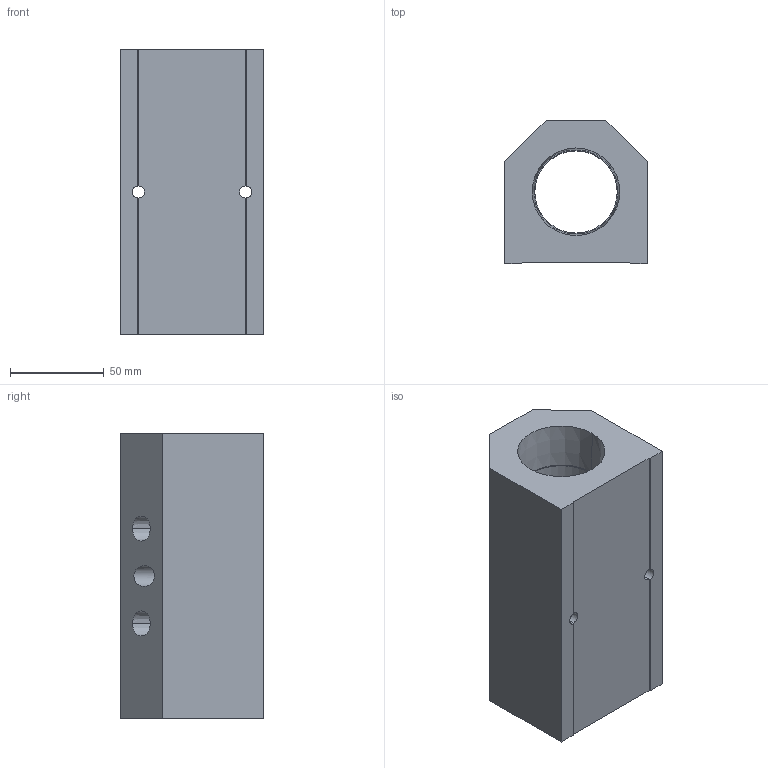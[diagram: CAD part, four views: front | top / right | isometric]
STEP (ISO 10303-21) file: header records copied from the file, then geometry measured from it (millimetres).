
FILE_DESCRIPTION (( 'STEP AP214' ), '1' );
FILE_NAME ('ALM2BD-N4N24-152R.step', '2022-02-07T07:39:35', ( '' ), ( '' ), 'SwSTEP 2.0', 'SolidWorks 2020', '' );
FILE_SCHEMA (( 'AUTOMOTIVE_DESIGN' ));
Length unit declared in the file: millimetre
Products named in the file (1): ALM2BD-N4N24-152R
Bounding box: 76.2 x 76.2 x 152 mm (x, y, z)
Volume: 551732.7 mm3; surface area: 75428.2 mm2
Topology: 1 solids, 1 shells, 293 faces, 773 edges, 514 vertices
Faces by surface type: plane 220, bspline 51, cone 12, cylinder 10
Entity records: 15594 total; most frequent: CARTESIAN_POINT 5796, ORIENTED_EDGE 1546, DIRECTION 1173, EDGE_CURVE 773, LINE 623, VECTOR 623, VERTEX_POINT 514, EDGE_LOOP 339
